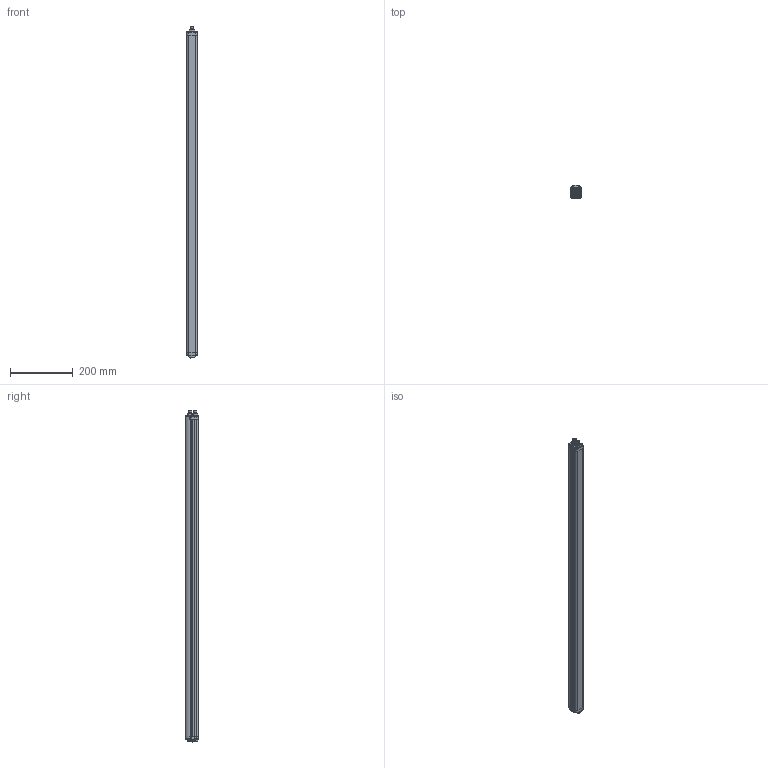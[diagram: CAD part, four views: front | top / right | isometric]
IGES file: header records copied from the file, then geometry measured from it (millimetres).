
Start section:  PTC IGES file: 2013530
Global section: file name: 2013530; native system: Pro/ENGINEER by Parametric Technology Corporation; preprocessor: 2011040; author: rink; organization: Unknown; date: 20131122.132746; units: millimetre
Bounding box: 35 x 41.2 x 1062.5 mm (x, y, z)
Surface area: 192455.8 mm2 (no closed solid volume)
Topology: 0 solids, 0 shells, 2044 faces, 9520 edges, 9436 vertices
Faces by surface type: bspline 1025, revolution 912, extrusion 107
